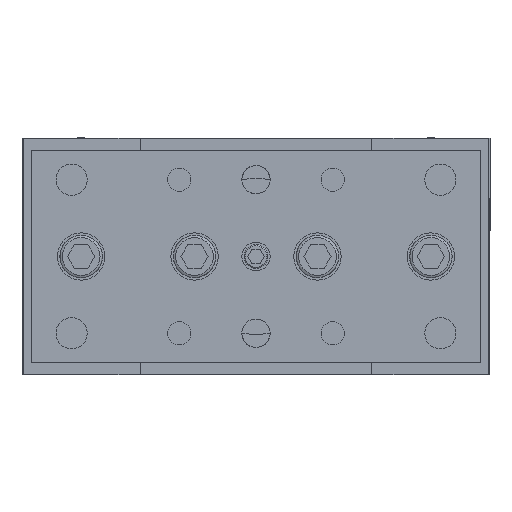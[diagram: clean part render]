
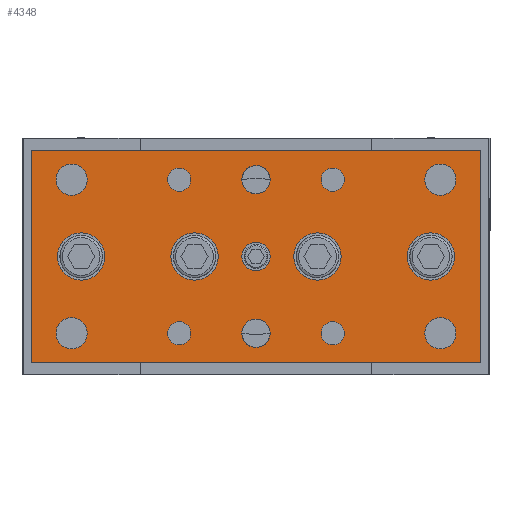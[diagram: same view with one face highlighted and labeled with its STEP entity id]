
A CAD part, front view. The second image highlights one B-rep face of the part: STEP entity #4348.
In plain terms, the highlighted planar face has unit normal (0, -1, 0).
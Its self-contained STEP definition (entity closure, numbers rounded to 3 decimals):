
#3177=CARTESIAN_POINT('',(3.,-72.0,-16.25));
#3178=VERTEX_POINT('',#3177);
#3179=CARTESIAN_POINT('',(0.,-72.0,-16.25));
#3180=DIRECTION('',(0.0,1.0,0.0));
#3181=DIRECTION('',(-1.0,0.0,0.0));
#3182=AXIS2_PLACEMENT_3D('',#3179,#3180,#3181);
#3183=CIRCLE('',#3182,3.);
#3184=EDGE_CURVE('',#3178,#3178,#3183,.T.);
#3198=CARTESIAN_POINT('',(3.,-72.0,16.25));
#3199=VERTEX_POINT('',#3198);
#3200=CARTESIAN_POINT('',(0.,-72.0,16.25));
#3201=DIRECTION('',(0.0,1.0,0.0));
#3202=DIRECTION('',(-1.0,0.0,0.0));
#3203=AXIS2_PLACEMENT_3D('',#3200,#3201,#3202);
#3204=CIRCLE('',#3203,3.);
#3205=EDGE_CURVE('',#3199,#3199,#3204,.T.);
#3700=CARTESIAN_POINT('',(3.,-72.0,0.));
#3701=VERTEX_POINT('',#3700);
#3702=CARTESIAN_POINT('',(0.0,-72.0,0.0));
#3703=DIRECTION('',(0.0,1.0,0.0));
#3704=DIRECTION('',(-1.0,0.0,0.0));
#3705=AXIS2_PLACEMENT_3D('',#3702,#3703,#3704);
#3706=CIRCLE('',#3705,3.);
#3707=EDGE_CURVE('',#3701,#3701,#3706,.T.);
#3740=CARTESIAN_POINT('',(-32.0,-72.0,0.));
#3741=VERTEX_POINT('',#3740);
#3742=CARTESIAN_POINT('',(-37.0,-72.0,0.0));
#3743=DIRECTION('',(0.0,1.0,0.0));
#3744=DIRECTION('',(-1.0,0.0,0.0));
#3745=AXIS2_PLACEMENT_3D('',#3742,#3743,#3744);
#3746=CIRCLE('',#3745,5.0);
#3747=EDGE_CURVE('',#3741,#3741,#3746,.T.);
#3780=CARTESIAN_POINT('',(-8.,-72.0,0.));
#3781=VERTEX_POINT('',#3780);
#3782=CARTESIAN_POINT('',(-13.,-72.0,0.));
#3783=DIRECTION('',(0.0,1.0,0.0));
#3784=DIRECTION('',(-1.0,0.0,0.0));
#3785=AXIS2_PLACEMENT_3D('',#3782,#3783,#3784);
#3786=CIRCLE('',#3785,5.0);
#3787=EDGE_CURVE('',#3781,#3781,#3786,.T.);
#3820=CARTESIAN_POINT('',(18.,-72.0,0.));
#3821=VERTEX_POINT('',#3820);
#3822=CARTESIAN_POINT('',(13.,-72.0,0.));
#3823=DIRECTION('',(0.0,1.0,0.0));
#3824=DIRECTION('',(-1.0,0.0,0.0));
#3825=AXIS2_PLACEMENT_3D('',#3822,#3823,#3824);
#3826=CIRCLE('',#3825,5.0);
#3827=EDGE_CURVE('',#3821,#3821,#3826,.T.);
#3860=CARTESIAN_POINT('',(42.,-72.0,0.));
#3861=VERTEX_POINT('',#3860);
#3862=CARTESIAN_POINT('',(37.,-72.0,0.));
#3863=DIRECTION('',(0.0,1.0,0.0));
#3864=DIRECTION('',(-1.0,0.0,0.0));
#3865=AXIS2_PLACEMENT_3D('',#3862,#3863,#3864);
#3866=CIRCLE('',#3865,5.0);
#3867=EDGE_CURVE('',#3861,#3861,#3866,.T.);
#4200=CARTESIAN_POINT('',(47.5,-72.0,0.));
#4201=DIRECTION('',(0.0,-1.0,0.0));
#4202=DIRECTION('',(0.0,0.0,-1.0));
#4203=AXIS2_PLACEMENT_3D('',#4200,#4201,#4202);
#4204=PLANE('',#4203);
#4205=CARTESIAN_POINT('',(47.5,-72.0,22.5));
#4206=VERTEX_POINT('',#4205);
#4207=CARTESIAN_POINT('',(-47.5,-72.0,22.5));
#4208=VERTEX_POINT('',#4207);
#4209=CARTESIAN_POINT('',(47.5,-72.0,22.5));
#4210=DIRECTION('',(-1.0,0.0,0.0));
#4211=VECTOR('',#4210,95.0);
#4212=LINE('',#4209,#4211);
#4213=EDGE_CURVE('',#4206,#4208,#4212,.T.);
#4214=ORIENTED_EDGE('',*,*,#4213,.T.);
#4215=CARTESIAN_POINT('',(-47.5,-72.0,-22.5));
#4216=VERTEX_POINT('',#4215);
#4217=CARTESIAN_POINT('',(-47.5,-72.0,22.5));
#4218=DIRECTION('',(0.0,0.0,-1.0));
#4219=VECTOR('',#4218,45.0);
#4220=LINE('',#4217,#4219);
#4221=EDGE_CURVE('',#4208,#4216,#4220,.T.);
#4222=ORIENTED_EDGE('',*,*,#4221,.T.);
#4223=CARTESIAN_POINT('',(47.5,-72.0,-22.5));
#4224=VERTEX_POINT('',#4223);
#4225=CARTESIAN_POINT('',(-47.5,-72.0,-22.5));
#4226=DIRECTION('',(1.0,0.0,0.0));
#4227=VECTOR('',#4226,95.0);
#4228=LINE('',#4225,#4227);
#4229=EDGE_CURVE('',#4216,#4224,#4228,.T.);
#4230=ORIENTED_EDGE('',*,*,#4229,.T.);
#4231=CARTESIAN_POINT('',(47.5,-72.0,-22.5));
#4232=DIRECTION('',(0.0,0.0,1.0));
#4233=VECTOR('',#4232,45.0);
#4234=LINE('',#4231,#4233);
#4235=EDGE_CURVE('',#4224,#4206,#4234,.T.);
#4236=ORIENTED_EDGE('',*,*,#4235,.T.);
#4237=EDGE_LOOP('',(#4214,#4222,#4230,#4236));
#4238=FACE_OUTER_BOUND('',#4237,.T.);
#4239=ORIENTED_EDGE('',*,*,#3184,.T.);
#4240=EDGE_LOOP('',(#4239));
#4241=FACE_BOUND('',#4240,.T.);
#4242=ORIENTED_EDGE('',*,*,#3205,.T.);
#4243=EDGE_LOOP('',(#4242));
#4244=FACE_BOUND('',#4243,.T.);
#4245=CARTESIAN_POINT('',(-13.791,-72.0,16.25));
#4246=VERTEX_POINT('',#4245);
#4247=CARTESIAN_POINT('',(-16.25,-72.,16.25));
#4248=DIRECTION('',(0.0,1.0,0.0));
#4249=DIRECTION('',(1.0,0.0,0.0));
#4250=AXIS2_PLACEMENT_3D('',#4247,#4248,#4249);
#4251=CIRCLE('',#4250,2.459);
#4252=EDGE_CURVE('',#4246,#4246,#4251,.T.);
#4253=ORIENTED_EDGE('',*,*,#4252,.T.);
#4254=EDGE_LOOP('',(#4253));
#4255=FACE_BOUND('',#4254,.T.);
#4256=CARTESIAN_POINT('',(18.709,-72.0,16.25));
#4257=VERTEX_POINT('',#4256);
#4258=CARTESIAN_POINT('',(16.25,-72.,16.25));
#4259=DIRECTION('',(0.0,1.0,0.0));
#4260=DIRECTION('',(1.0,0.0,0.0));
#4261=AXIS2_PLACEMENT_3D('',#4258,#4259,#4260);
#4262=CIRCLE('',#4261,2.459);
#4263=EDGE_CURVE('',#4257,#4257,#4262,.T.);
#4264=ORIENTED_EDGE('',*,*,#4263,.T.);
#4265=EDGE_LOOP('',(#4264));
#4266=FACE_BOUND('',#4265,.T.);
#4267=CARTESIAN_POINT('',(-13.791,-72.0,-16.25));
#4268=VERTEX_POINT('',#4267);
#4269=CARTESIAN_POINT('',(-16.25,-72.,-16.25));
#4270=DIRECTION('',(0.0,1.0,0.0));
#4271=DIRECTION('',(1.0,0.0,0.0));
#4272=AXIS2_PLACEMENT_3D('',#4269,#4270,#4271);
#4273=CIRCLE('',#4272,2.459);
#4274=EDGE_CURVE('',#4268,#4268,#4273,.T.);
#4275=ORIENTED_EDGE('',*,*,#4274,.T.);
#4276=EDGE_LOOP('',(#4275));
#4277=FACE_BOUND('',#4276,.T.);
#4278=CARTESIAN_POINT('',(18.709,-72.0,-16.25));
#4279=VERTEX_POINT('',#4278);
#4280=CARTESIAN_POINT('',(16.25,-72.,-16.25));
#4281=DIRECTION('',(0.0,1.0,0.0));
#4282=DIRECTION('',(1.0,0.0,0.0));
#4283=AXIS2_PLACEMENT_3D('',#4280,#4281,#4282);
#4284=CIRCLE('',#4283,2.459);
#4285=EDGE_CURVE('',#4279,#4279,#4284,.T.);
#4286=ORIENTED_EDGE('',*,*,#4285,.T.);
#4287=EDGE_LOOP('',(#4286));
#4288=FACE_BOUND('',#4287,.T.);
#4289=CARTESIAN_POINT('',(-42.3,-72.,16.25));
#4290=VERTEX_POINT('',#4289);
#4291=CARTESIAN_POINT('',(-39.0,-72.,16.25));
#4292=DIRECTION('',(0.0,1.0,0.0));
#4293=DIRECTION('',(1.0,0.0,0.0));
#4294=AXIS2_PLACEMENT_3D('',#4291,#4292,#4293);
#4295=CIRCLE('',#4294,3.3);
#4296=EDGE_CURVE('',#4290,#4290,#4295,.T.);
#4297=ORIENTED_EDGE('',*,*,#4296,.T.);
#4298=EDGE_LOOP('',(#4297));
#4299=FACE_BOUND('',#4298,.T.);
#4300=CARTESIAN_POINT('',(35.7,-72.,16.25));
#4301=VERTEX_POINT('',#4300);
#4302=CARTESIAN_POINT('',(39.,-72.,16.25));
#4303=DIRECTION('',(0.0,1.0,0.0));
#4304=DIRECTION('',(1.0,0.0,0.0));
#4305=AXIS2_PLACEMENT_3D('',#4302,#4303,#4304);
#4306=CIRCLE('',#4305,3.3);
#4307=EDGE_CURVE('',#4301,#4301,#4306,.T.);
#4308=ORIENTED_EDGE('',*,*,#4307,.T.);
#4309=EDGE_LOOP('',(#4308));
#4310=FACE_BOUND('',#4309,.T.);
#4311=CARTESIAN_POINT('',(-42.3,-72.,-16.25));
#4312=VERTEX_POINT('',#4311);
#4313=CARTESIAN_POINT('',(-39.0,-72.,-16.25));
#4314=DIRECTION('',(0.0,1.0,0.0));
#4315=DIRECTION('',(1.0,0.0,0.0));
#4316=AXIS2_PLACEMENT_3D('',#4313,#4314,#4315);
#4317=CIRCLE('',#4316,3.3);
#4318=EDGE_CURVE('',#4312,#4312,#4317,.T.);
#4319=ORIENTED_EDGE('',*,*,#4318,.T.);
#4320=EDGE_LOOP('',(#4319));
#4321=FACE_BOUND('',#4320,.T.);
#4322=CARTESIAN_POINT('',(35.7,-72.,-16.25));
#4323=VERTEX_POINT('',#4322);
#4324=CARTESIAN_POINT('',(39.,-72.,-16.25));
#4325=DIRECTION('',(0.0,1.0,0.0));
#4326=DIRECTION('',(1.0,0.0,0.0));
#4327=AXIS2_PLACEMENT_3D('',#4324,#4325,#4326);
#4328=CIRCLE('',#4327,3.3);
#4329=EDGE_CURVE('',#4323,#4323,#4328,.T.);
#4330=ORIENTED_EDGE('',*,*,#4329,.T.);
#4331=EDGE_LOOP('',(#4330));
#4332=FACE_BOUND('',#4331,.T.);
#4333=ORIENTED_EDGE('',*,*,#3867,.T.);
#4334=EDGE_LOOP('',(#4333));
#4335=FACE_BOUND('',#4334,.T.);
#4336=ORIENTED_EDGE('',*,*,#3827,.T.);
#4337=EDGE_LOOP('',(#4336));
#4338=FACE_BOUND('',#4337,.T.);
#4339=ORIENTED_EDGE('',*,*,#3787,.T.);
#4340=EDGE_LOOP('',(#4339));
#4341=FACE_BOUND('',#4340,.T.);
#4342=ORIENTED_EDGE('',*,*,#3747,.T.);
#4343=EDGE_LOOP('',(#4342));
#4344=FACE_BOUND('',#4343,.T.);
#4345=ORIENTED_EDGE('',*,*,#3707,.T.);
#4346=EDGE_LOOP('',(#4345));
#4347=FACE_BOUND('',#4346,.T.);
#4348=ADVANCED_FACE('',(#4238,#4241,#4244,#4255,#4266,#4277,#4288,#4299,#4310,#4321,#4332,#4335,#4338,#4341,#4344,#4347),#4204,.T.);
